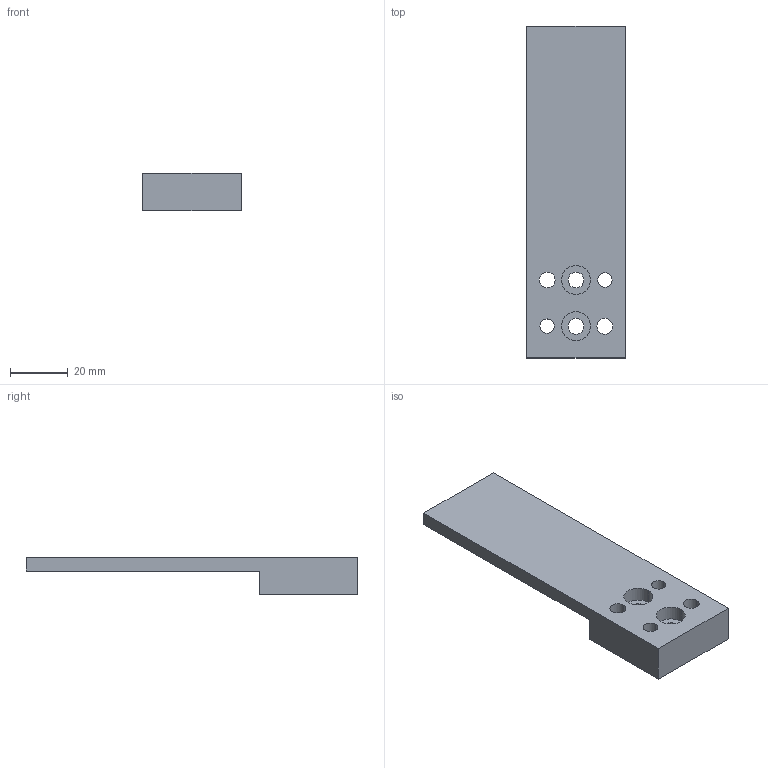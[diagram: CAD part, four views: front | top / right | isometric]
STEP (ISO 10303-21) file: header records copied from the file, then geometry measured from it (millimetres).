
FILE_DESCRIPTION (( 'STEP AP203' ), '1' );
FILE_NAME ('PPE40-P1.step', '2017-02-15T12:25:43', ( '' ), ( '' ), 'SwSTEP 2.0', 'SolidWorks 2012', '' );
FILE_SCHEMA (( 'CONFIG_CONTROL_DESIGN' ));
Length unit declared in the file: millimetre
Products named in the file (1): PPE40-P1
Bounding box: 34.2 x 115 x 13 mm (x, y, z)
Volume: 26115.5 mm3; surface area: 11597.5 mm2
Topology: 1 solids, 1 shells, 26 faces, 66 edges, 44 vertices
Faces by surface type: cylinder 16, plane 10
Entity records: 903 total; most frequent: DIRECTION 152, CARTESIAN_POINT 137, ORIENTED_EDGE 132, EDGE_CURVE 66, AXIS2_PLACEMENT_3D 59, VERTEX_POINT 44, EDGE_LOOP 40, LINE 34
